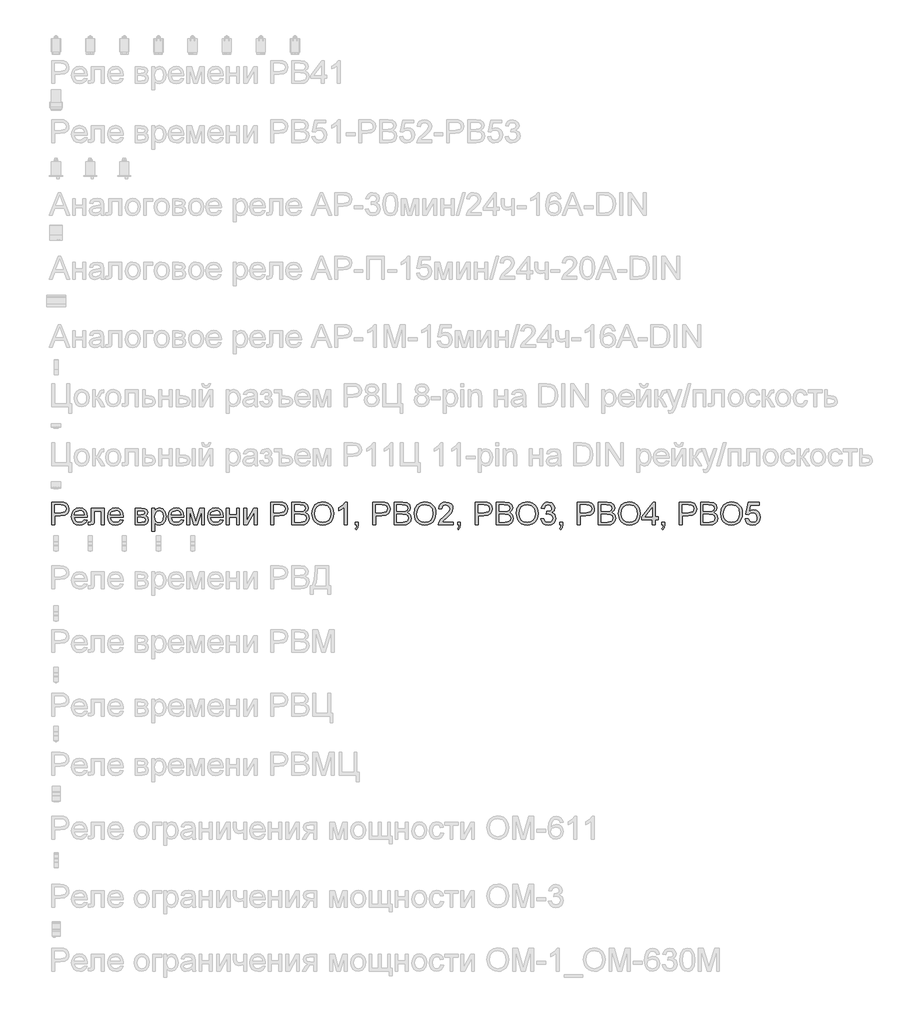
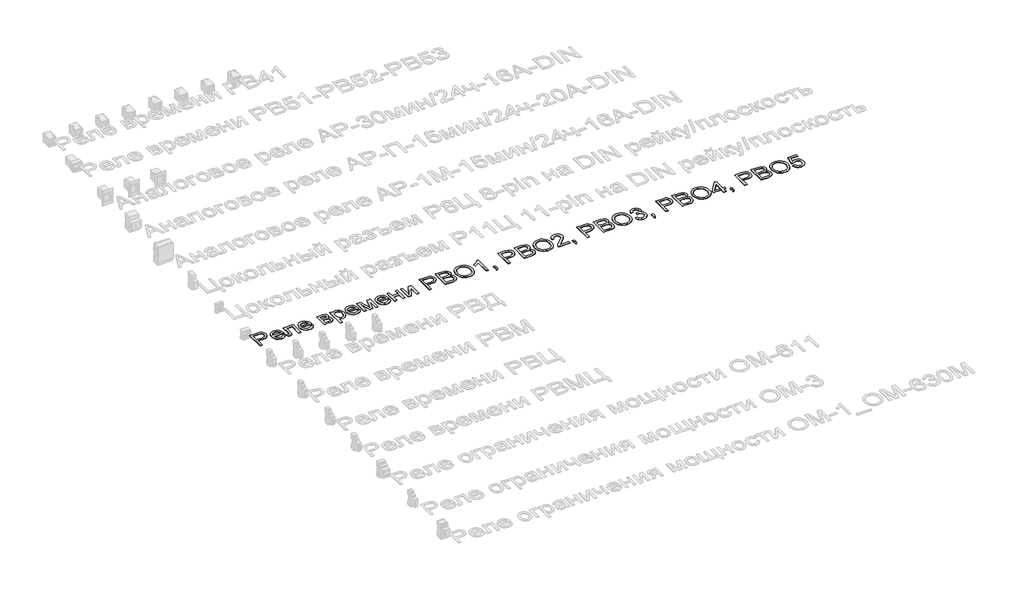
# One storey, part 22 of 34: 1 proxy.
"""IFC4 building model written with IfcOpenShell, lengths in millimetres."""

from ifc_helpers import new_model, si_unit, frame, origin, place, context, project, spatial, polyline, outline, extrude, element, save

model = new_model("IFC4")

# Units and contexts
model_context = context("Model", 3, world=origin())
ifc_project = project(units=[si_unit("LENGTHUNIT", "METRE", prefix="MILLI")], contexts=[model_context])

# Site, building, storey
site = spatial("IfcSite", under=ifc_project)
building = spatial("IfcBuilding", under=site)
storey = spatial("IfcBuildingStorey", under=building, Name="Этаж 01", Elevation=0.0)

# Proxy
placement = place(None, origin())
element("IfcBuildingElementProxy", 1, Name="Надпись на модели 1", ObjectType="Надпись на модели 1", at=placement, inside=storey, context=model_context, shape_type="SweptSolid", body=[
    extrude(outline(polyline([(-19039.0125911, 14596.235284), (-19039.0125911, 14696.6915941), (-19001.7829332, 14696.6915941), (-18986.7733478, 14695.735101), (-18974.5719283, 14691.0384742), (-18966.6624654, 14681.3263895), (-18963.6703585, 14667.6289165), (-18965.6906438, 14655.7892476), (-18971.7514996, 14645.9238788), (-18983.0853308, 14639.2652147), (-19000.9245418, 14637.04566), (-19026.4555523, 14637.04566), (-19026.4555523, 14596.235284), (-19039.0125911, 14596.235284)]), holes=[polyline([(-19026.4555523, 14649.6026988), (-19000.1887779, 14649.6026988), (-18981.6965762, 14654.2134864), (-18977.594692, 14659.7623732), (-18976.2273972, 14667.1874581), (-18979.4524961, 14677.5862559), (-18987.9260447, 14683.2761641), (-19000.4830834, 14684.1345554), (-19026.4555523, 14684.1345554), (-19026.4555523, 14649.6026988)])]), frame((0.0, 0.0, 40.0), z_axis=(0.0, 0.0, 1.0), x_axis=(1.0, 0.0, 0.0)), (0.0, 0.0, 1.0), 2.0),
    extrude(outline(polyline([(-18896.3234279, 14618.2101018), (-18884.0116438, 14616.640472), (-18888.4476875, 14607.3637143), (-18895.5263502, 14600.4291387), (-18905.0882164, 14596.1065253), (-18916.9738705, 14594.6656541), (-18931.7075445, 14597.1519233), (-18943.0444413, 14604.6107308), (-18950.2733225, 14616.5576985), (-18952.6829495, 14632.5084487), (-18950.248797, 14648.9956935), (-18942.9463394, 14661.3258717), (-18931.7627268, 14669.0146054), (-18917.6851091, 14671.5775166), (-18904.0458841, 14669.0207367), (-18893.14738, 14661.3503971), (-18886.0012722, 14649.0447444), (-18883.6192363, 14632.5820251), (-18883.6928127, 14629.1975108), (-18940.1259108, 14629.1975108), (-18937.9523413, 14619.7981258), (-18932.9031609, 14612.8880756), (-18925.6160317, 14608.6390386), (-18916.7286159, 14607.2226929), (-18904.4168318, 14609.8469178), (-18896.3234279, 14618.2101018)]), holes=[polyline([(-18940.1259108, 14641.7545495), (-18896.1762751, 14641.7545495), (-18901.2039957, 14653.1343659), (-18908.5248474, 14657.5489499), (-18917.73416, 14659.0204778), (-18933.1974665, 14654.323851), (-18938.0627059, 14648.8332123), (-18940.1259108, 14641.7545495)])]), frame((0.0, 0.0, 40.0), z_axis=(0.0, 0.0, 1.0), x_axis=(1.0, 0.0, 0.0)), (0.0, 0.0, 1.0), 2.0),
    extrude(outline(polyline([(-18864.7836782, 14670.0078868), (-18808.2770037, 14670.0078868), (-18808.2770037, 14596.3088604), (-18820.8340425, 14596.3088604), (-18820.8340425, 14657.450848), (-18852.2266394, 14657.450848), (-18852.2266394, 14622.2568038), (-18853.072768, 14606.0209451), (-18857.7203439, 14599.1660772), (-18868.7077528, 14596.235284), (-18878.9103468, 14596.8729461), (-18878.9103468, 14608.7923228), (-18873.294015, 14608.7923228), (-18867.6163695, 14609.564875), (-18865.3477639, 14612.0174216), (-18864.7836782, 14622.9680423), (-18864.7836782, 14670.0078868)])), frame((0.0, 0.0, 40.0), z_axis=(0.0, 0.0, 1.0), x_axis=(1.0, 0.0, 0.0)), (0.0, 0.0, 1.0), 2.0),
    extrude(outline(polyline([(-18737.7908134, 14618.2101018), (-18725.4790293, 14616.640472), (-18729.915073, 14607.3637143), (-18736.9937358, 14600.4291387), (-18746.555602, 14596.1065253), (-18758.4412561, 14594.6656541), (-18773.17493, 14597.1519233), (-18784.5118268, 14604.6107308), (-18791.740708, 14616.5576985), (-18794.1503351, 14632.5084487), (-18791.7161826, 14648.9956935), (-18784.4137249, 14661.3258717), (-18773.2301123, 14669.0146054), (-18759.1524946, 14671.5775166), (-18745.5132696, 14669.0207367), (-18734.6147655, 14661.3503971), (-18727.4686578, 14649.0447444), (-18725.0866219, 14632.5820251), (-18725.1601983, 14629.1975108), (-18781.5932963, 14629.1975108), (-18779.4197269, 14619.7981258), (-18774.3705465, 14612.8880756), (-18767.0834173, 14608.6390386), (-18758.1960014, 14607.2226929), (-18745.8842173, 14609.8469178), (-18737.7908134, 14618.2101018)]), holes=[polyline([(-18781.5932963, 14641.7545495), (-18737.6436606, 14641.7545495), (-18742.6713812, 14653.1343659), (-18749.9922329, 14657.5489499), (-18759.2015455, 14659.0204778), (-18774.6648521, 14654.323851), (-18779.5300915, 14648.8332123), (-18781.5932963, 14641.7545495)])]), frame((0.0, 0.0, 40.0), z_axis=(0.0, 0.0, 1.0), x_axis=(1.0, 0.0, 0.0)), (0.0, 0.0, 1.0), 2.0),
    extrude(outline(polyline([(-18673.2888369, 14670.0078868), (-18645.6241109, 14670.0078868), (-18630.45511, 14668.3278923), (-18621.9202477, 14662.1720003), (-18618.3517923, 14651.4421087), (-18620.5100334, 14642.7233055), (-18627.0092819, 14636.5060997), (-18618.5725215, 14629.7002828), (-18615.2125326, 14617.8667453), (-18617.3401168, 14608.2956821), (-18622.3984943, 14601.5573102), (-18630.406059, 14597.5657905), (-18641.3812052, 14596.235284), (-18673.2888369, 14596.235284), (-18673.2888369, 14670.0078868)]), holes=[polyline([(-18660.7317982, 14641.7545495), (-18648.3219122, 14641.7545495), (-18638.08253, 14642.3922117), (-18633.1038603, 14644.9428602), (-18630.9088311, 14649.5536478), (-18634.7593293, 14655.7095399), (-18647.9295047, 14657.450848), (-18660.7317982, 14657.450848), (-18660.7317982, 14641.7545495)]), polyline([(-18660.7317982, 14608.7923228), (-18645.3298053, 14608.7923228), (-18631.6691206, 14611.0609284), (-18627.7695714, 14618.8968149), (-18629.9155497, 14624.9423424), (-18635.507356, 14628.4617468), (-18646.5560786, 14629.1975108), (-18660.7317982, 14629.1975108), (-18660.7317982, 14608.7923228)])]), frame((0.0, 0.0, 40.0), z_axis=(0.0, 0.0, 1.0), x_axis=(1.0, 0.0, 0.0)), (0.0, 0.0, 1.0), 2.0),
    extrude(outline(polyline([(-18599.5162342, 14567.9819468), (-18599.5162342, 14670.0078868), (-18586.9591954, 14670.0078868), (-18586.9591954, 14657.6961027), (-18578.2771803, 14668.1071631), (-18566.5540074, 14671.5775166), (-18550.6369797, 14666.7214743), (-18540.238182, 14653.036264), (-18536.7310403, 14633.6856711), (-18540.6919031, 14613.3417968), (-18552.1943469, 14599.4849083), (-18568.0745863, 14594.6656541), (-18579.0006816, 14597.890753), (-18586.9591954, 14606.0454705), (-18586.9591954, 14567.9819468), (-18599.5162342, 14567.9819468)]), holes=[polyline([(-18586.9591954, 14632.5329742), (-18585.6010977, 14621.2757851), (-18581.5268046, 14613.4031104), (-18575.5149997, 14608.7677973), (-18568.3443664, 14607.2226929), (-18561.0572373, 14608.8229796), (-18554.8921482, 14613.6238396), (-18550.6890964, 14621.7846886), (-18549.2880791, 14633.4649419), (-18550.6553738, 14644.6608173), (-18554.7572581, 14652.6438566), (-18560.759866, 14657.4263225), (-18567.8293317, 14659.0204778), (-18574.9263885, 14657.325155), (-18581.1589226, 14652.2391864), (-18585.5091272, 14643.9219876), (-18586.9591954, 14632.5329742)])]), frame((0.0, 0.0, 40.0), z_axis=(0.0, 0.0, 1.0), x_axis=(1.0, 0.0, 0.0)), (0.0, 0.0, 1.0), 2.0),
    extrude(outline(polyline([(-18470.9537396, 14618.2101018), (-18458.6419555, 14616.640472), (-18463.0779992, 14607.3637143), (-18470.1566619, 14600.4291387), (-18479.7185281, 14596.1065253), (-18491.6041823, 14594.6656541), (-18506.3378562, 14597.1519233), (-18517.674753, 14604.6107308), (-18524.9036342, 14616.5576985), (-18527.3132613, 14632.5084487), (-18524.8791087, 14648.9956935), (-18517.5766511, 14661.3258717), (-18506.3930385, 14669.0146054), (-18492.3154208, 14671.5775166), (-18478.6761958, 14669.0207367), (-18467.7776917, 14661.3503971), (-18460.6315839, 14649.0447444), (-18458.249548, 14632.5820251), (-18458.3231244, 14629.1975108), (-18514.7562225, 14629.1975108), (-18512.582653, 14619.7981258), (-18507.5334726, 14612.8880756), (-18500.2463435, 14608.6390386), (-18491.3589276, 14607.2226929), (-18479.0471435, 14609.8469178), (-18470.9537396, 14618.2101018)]), holes=[polyline([(-18514.7562225, 14641.7545495), (-18470.8065868, 14641.7545495), (-18475.8343074, 14653.1343659), (-18483.1551591, 14657.5489499), (-18492.3644717, 14659.0204778), (-18507.8277782, 14654.323851), (-18512.6930176, 14648.8332123), (-18514.7562225, 14641.7545495)])]), frame((0.0, 0.0, 40.0), z_axis=(0.0, 0.0, 1.0), x_axis=(1.0, 0.0, 0.0)), (0.0, 0.0, 1.0), 2.0),
    extrude(outline(polyline([(-18445.6925093, 14670.0078868), (-18424.0855734, 14670.0078868), (-18407.4327818, 14610.9505638), (-18389.4801404, 14670.0078868), (-18368.7806468, 14670.0078868), (-18368.7806468, 14596.235284), (-18381.3376856, 14596.235284), (-18381.3376856, 14655.6359635), (-18399.3884288, 14596.235284), (-18415.8695422, 14596.235284), (-18433.1354705, 14658.4809176), (-18433.1354705, 14596.235284), (-18445.6925093, 14596.235284), (-18445.6925093, 14670.0078868)])), frame((0.0, 0.0, 40.0), z_axis=(0.0, 0.0, 1.0), x_axis=(1.0, 0.0, 0.0)), (0.0, 0.0, 1.0), 2.0),
    extrude(outline(polyline([(-18298.2944565, 14618.2101018), (-18285.9826724, 14616.640472), (-18290.4187161, 14607.3637143), (-18297.4973789, 14600.4291387), (-18307.0592451, 14596.1065253), (-18318.9448992, 14594.6656541), (-18333.6785731, 14597.1519233), (-18345.0154699, 14604.6107308), (-18352.2443511, 14616.5576985), (-18354.6539782, 14632.5084487), (-18352.2198256, 14648.9956935), (-18344.917368, 14661.3258717), (-18333.7337554, 14669.0146054), (-18319.6561377, 14671.5775166), (-18306.0169127, 14669.0207367), (-18295.1184086, 14661.3503971), (-18287.9723009, 14649.0447444), (-18285.590265, 14632.5820251), (-18285.6638414, 14629.1975108), (-18342.0969394, 14629.1975108), (-18339.92337, 14619.7981258), (-18334.8741896, 14612.8880756), (-18327.5870604, 14608.6390386), (-18318.6996445, 14607.2226929), (-18306.3878604, 14609.8469178), (-18298.2944565, 14618.2101018)]), holes=[polyline([(-18342.0969394, 14641.7545495), (-18298.1473037, 14641.7545495), (-18303.1750243, 14653.1343659), (-18310.495876, 14657.5489499), (-18319.7051886, 14659.0204778), (-18335.1684952, 14654.323851), (-18340.0337346, 14648.8332123), (-18342.0969394, 14641.7545495)])]), frame((0.0, 0.0, 40.0), z_axis=(0.0, 0.0, 1.0), x_axis=(1.0, 0.0, 0.0)), (0.0, 0.0, 1.0), 2.0),
    extrude(outline(polyline([(-18273.0332262, 14670.0078868), (-18260.4761874, 14670.0078868), (-18260.4761874, 14641.7545495), (-18227.5139607, 14641.7545495), (-18227.5139607, 14670.0078868), (-18214.9569219, 14670.0078868), (-18214.9569219, 14596.235284), (-18227.5139607, 14596.235284), (-18227.5139607, 14629.1975108), (-18260.4761874, 14629.1975108), (-18260.4761874, 14596.235284), (-18273.0332262, 14596.235284), (-18273.0332262, 14670.0078868)])), frame((0.0, 0.0, 40.0), z_axis=(0.0, 0.0, 1.0), x_axis=(1.0, 0.0, 0.0)), (0.0, 0.0, 1.0), 2.0),
    extrude(outline(polyline([(-18196.1213637, 14670.0078868), (-18183.564325, 14670.0078868), (-18183.564325, 14613.746467), (-18152.7112883, 14670.0078868), (-18136.4754296, 14670.0078868), (-18136.4754296, 14596.235284), (-18149.0324683, 14596.235284), (-18149.0324683, 14652.1533473), (-18179.6893013, 14596.235284), (-18196.1213637, 14596.235284), (-18196.1213637, 14670.0078868)])), frame((0.0, 0.0, 40.0), z_axis=(0.0, 0.0, 1.0), x_axis=(1.0, 0.0, 0.0)), (0.0, 0.0, 1.0), 2.0),
    extrude(outline(polyline([(-18076.8294954, 14596.235284), (-18076.8294954, 14696.6915941), (-18039.5998375, 14696.6915941), (-18024.5902521, 14695.735101), (-18012.3888326, 14691.0384742), (-18004.4793697, 14681.3263895), (-18001.4872628, 14667.6289165), (-18003.5075481, 14655.7892476), (-18009.568404, 14645.9238788), (-18020.9022351, 14639.2652147), (-18038.7414462, 14637.04566), (-18064.2724567, 14637.04566), (-18064.2724567, 14596.235284), (-18076.8294954, 14596.235284)]), holes=[polyline([(-18064.2724567, 14649.6026988), (-18038.0056822, 14649.6026988), (-18019.5134806, 14654.2134864), (-18015.4115963, 14659.7623732), (-18014.0443016, 14667.1874581), (-18017.2694004, 14677.5862559), (-18025.742949, 14683.2761641), (-18038.2999878, 14684.1345554), (-18064.2724567, 14684.1345554), (-18064.2724567, 14649.6026988)])]), frame((0.0, 0.0, 40.0), z_axis=(0.0, 0.0, 1.0), x_axis=(1.0, 0.0, 0.0)), (0.0, 0.0, 1.0), 2.0),
    extrude(outline(polyline([(-17984.2213345, 14596.235284), (-17984.2213345, 14696.6915941), (-17945.8880306, 14696.6915941), (-17927.1137861, 14693.7362754), (-17916.0282753, 14684.6495902), (-17912.0183616, 14671.7982458), (-17915.3906132, 14660.0628102), (-17925.5809445, 14651.1723286), (-17913.2078467, 14641.8036005), (-17908.8791019, 14626.1808784), (-17911.8344206, 14612.6796092), (-17919.1552723, 14603.0656264), (-17930.0813675, 14597.9643294), (-17946.1823362, 14596.235284), (-17984.2213345, 14596.235284)]), holes=[polyline([(-17971.6642957, 14655.8812181), (-17948.7329847, 14655.8812181), (-17935.3420801, 14656.9603387), (-17927.2854644, 14661.6079145), (-17924.5754004, 14669.7871576), (-17927.1015234, 14677.9786633), (-17934.336536, 14682.8224429), (-17950.4742928, 14684.1345554), (-17971.6642957, 14684.1345554), (-17971.6642957, 14655.8812181)]), polyline([(-17971.6642957, 14608.7923228), (-17945.9125561, 14608.7923228), (-17936.5928789, 14609.2828321), (-17928.7079414, 14612.0174216), (-17923.4840171, 14617.5969652), (-17921.4361407, 14626.0582511), (-17923.8396364, 14635.8193867), (-17931.6264719, 14641.6441849), (-17947.1388294, 14643.3241794), (-17971.6642957, 14643.3241794), (-17971.6642957, 14608.7923228)])]), frame((0.0, 0.0, 40.0), z_axis=(0.0, 0.0, 1.0), x_axis=(1.0, 0.0, 0.0)), (0.0, 0.0, 1.0), 2.0),
    extrude(outline(polyline([(-17896.3220631, 14645.1390639), (-17892.974337, 14667.353005), (-17882.9311585, 14684.1590808), (-17867.5966107, 14694.7356882), (-17848.3747764, 14698.261224), (-17835.1984696, 14696.605755), (-17823.3833262, 14691.6393481), (-17813.5731397, 14683.7114911), (-17806.4117035, 14673.1716719), (-17802.0339078, 14660.528794), (-17800.5746425, 14646.2917608), (-17802.1105498, 14631.8646552), (-17806.7182718, 14619.0439677), (-17814.1433568, 14608.4857544), (-17824.1313529, 14600.8460717), (-17835.8453288, 14596.2107585), (-17848.4483528, 14594.6656541), (-17861.8269947, 14596.3732397), (-17873.7095832, 14601.4959965), (-17883.4952442, 14609.5710063), (-17890.583104, 14620.1353509), (-17896.3220631, 14645.1390639)]), holes=[polyline([(-17883.7650244, 14645.0164366), (-17881.2542297, 14629.301744), (-17873.7218459, 14617.327185), (-17862.4002775, 14609.7488159), (-17848.5219292, 14607.2226929), (-17834.4412459, 14609.7733414), (-17823.1012834, 14617.4252869), (-17815.6240818, 14629.7677279), (-17813.1316813, 14646.3898627), (-17817.3991124, 14667.1138817), (-17829.8703121, 14680.8358802), (-17848.3012, 14685.7041852), (-17861.8086006, 14683.3589375), (-17873.2926502, 14676.3231943), (-17881.1469308, 14663.8060095), (-17883.7650244, 14645.0164366)])]), frame((0.0, 0.0, 40.0), z_axis=(0.0, 0.0, 1.0), x_axis=(1.0, 0.0, 0.0)), (0.0, 0.0, 1.0), 2.0),
    extrude(outline(polyline([(-17740.9287084, 14596.235284), (-17753.4857471, 14596.235284), (-17753.4857471, 14674.5205726), (-17765.3805983, 14666.0470239), (-17778.5998247, 14659.7071909), (-17778.5998247, 14671.5775166), (-17760.1934622, 14683.325215), (-17749.0221123, 14696.6915941), (-17740.9287084, 14696.6915941), (-17740.9287084, 14596.235284)])), frame((0.0, 0.0, 40.0), z_axis=(0.0, 0.0, 1.0), x_axis=(1.0, 0.0, 0.0)), (0.0, 0.0, 1.0), 2.0),
    extrude(outline(polyline([(-17704.8272219, 14596.235284), (-17704.8272219, 14608.7923228), (-17692.2701831, 14608.7923228), (-17692.2701831, 14596.235284), (-17694.526526, 14583.3962024), (-17701.6879622, 14575.830096), (-17704.8272219, 14580.5389855), (-17700.2164342, 14585.9591136), (-17698.573228, 14596.235284), (-17704.8272219, 14596.235284)])), frame((0.0, 0.0, 40.0), z_axis=(0.0, 0.0, 1.0), x_axis=(1.0, 0.0, 0.0)), (0.0, 0.0, 1.0), 2.0),
    extrude(outline(polyline([(-17627.9153594, 14596.235284), (-17627.9153594, 14696.6915941), (-17590.6857015, 14696.6915941), (-17575.6761161, 14695.735101), (-17563.4746966, 14691.0384742), (-17555.5652337, 14681.3263895), (-17552.5731268, 14667.6289165), (-17554.5934121, 14655.7892476), (-17560.654268, 14645.9238788), (-17571.9880991, 14639.2652147), (-17589.8273102, 14637.04566), (-17615.3583207, 14637.04566), (-17615.3583207, 14596.235284), (-17627.9153594, 14596.235284)]), holes=[polyline([(-17615.3583207, 14649.6026988), (-17589.0915462, 14649.6026988), (-17570.5993446, 14654.2134864), (-17566.4974603, 14659.7623732), (-17565.1301656, 14667.1874581), (-17568.3552644, 14677.5862559), (-17576.828813, 14683.2761641), (-17589.3858518, 14684.1345554), (-17615.3583207, 14684.1345554), (-17615.3583207, 14649.6026988)])]), frame((0.0, 0.0, 40.0), z_axis=(0.0, 0.0, 1.0), x_axis=(1.0, 0.0, 0.0)), (0.0, 0.0, 1.0), 2.0),
    extrude(outline(polyline([(-17535.3071985, 14596.235284), (-17535.3071985, 14696.6915941), (-17496.9738946, 14696.6915941), (-17478.1996501, 14693.7362754), (-17467.1141394, 14684.6495902), (-17463.1042256, 14671.7982458), (-17466.4764772, 14660.0628102), (-17476.6668085, 14651.1723286), (-17464.2937107, 14641.8036005), (-17459.9649659, 14626.1808784), (-17462.9202846, 14612.6796092), (-17470.2411363, 14603.0656264), (-17481.1672316, 14597.9643294), (-17497.2682002, 14596.235284), (-17535.3071985, 14596.235284)]), holes=[polyline([(-17522.7501598, 14655.8812181), (-17499.8188487, 14655.8812181), (-17486.4279441, 14656.9603387), (-17478.3713284, 14661.6079145), (-17475.6612644, 14669.7871576), (-17478.1873874, 14677.9786633), (-17485.4224, 14682.8224429), (-17501.5601568, 14684.1345554), (-17522.7501598, 14684.1345554), (-17522.7501598, 14655.8812181)]), polyline([(-17522.7501598, 14608.7923228), (-17496.9984201, 14608.7923228), (-17487.6787429, 14609.2828321), (-17479.7938055, 14612.0174216), (-17474.5698811, 14617.5969652), (-17472.5220047, 14626.0582511), (-17474.9255004, 14635.8193867), (-17482.7123359, 14641.6441849), (-17498.2246934, 14643.3241794), (-17522.7501598, 14643.3241794), (-17522.7501598, 14608.7923228)])]), frame((0.0, 0.0, 40.0), z_axis=(0.0, 0.0, 1.0), x_axis=(1.0, 0.0, 0.0)), (0.0, 0.0, 1.0), 2.0),
    extrude(outline(polyline([(-17447.4079271, 14645.1390639), (-17444.060201, 14667.353005), (-17434.0170225, 14684.1590808), (-17418.6824747, 14694.7356882), (-17399.4606404, 14698.261224), (-17386.2843336, 14696.605755), (-17374.4691902, 14691.6393481), (-17364.6590037, 14683.7114911), (-17357.4975675, 14673.1716719), (-17353.1197718, 14660.528794), (-17351.6605065, 14646.2917608), (-17353.1964139, 14631.8646552), (-17357.8041359, 14619.0439677), (-17365.2292208, 14608.4857544), (-17375.217217, 14600.8460717), (-17386.9311928, 14596.2107585), (-17399.5342168, 14594.6656541), (-17412.9128587, 14596.3732397), (-17424.7954472, 14601.4959965), (-17434.5811082, 14609.5710063), (-17441.668968, 14620.1353509), (-17447.4079271, 14645.1390639)]), holes=[polyline([(-17434.8508884, 14645.0164366), (-17432.3400938, 14629.301744), (-17424.8077099, 14617.327185), (-17413.4861415, 14609.7488159), (-17399.6077932, 14607.2226929), (-17385.5271099, 14609.7733414), (-17374.1871474, 14617.4252869), (-17366.7099458, 14629.7677279), (-17364.2175453, 14646.3898627), (-17368.4849764, 14667.1138817), (-17380.9561761, 14680.8358802), (-17399.387064, 14685.7041852), (-17412.8944646, 14683.3589375), (-17424.3785142, 14676.3231943), (-17432.2327948, 14663.8060095), (-17434.8508884, 14645.0164366)])]), frame((0.0, 0.0, 40.0), z_axis=(0.0, 0.0, 1.0), x_axis=(1.0, 0.0, 0.0)), (0.0, 0.0, 1.0), 2.0),
    extrude(outline(polyline([(-17274.7486441, 14608.7923228), (-17274.7486441, 14596.235284), (-17340.6730976, 14596.235284), (-17339.324197, 14604.8927736), (-17331.6967769, 14618.2223646), (-17315.975953, 14632.7782288), (-17294.2954408, 14653.6984516), (-17288.8753127, 14667.9232221), (-17293.9888724, 14679.4379286), (-17307.3429888, 14684.1345554), (-17321.261191, 14679.5482932), (-17326.546429, 14666.8686271), (-17339.1034678, 14668.4382569), (-17336.0592443, 14680.5844941), (-17329.4772222, 14689.4565816), (-17319.7007582, 14694.882841), (-17307.0732087, 14696.6915941), (-17294.3536887, 14694.6805059), (-17284.5956188, 14688.6472412), (-17278.3876101, 14679.6341323), (-17276.3182739, 14668.6835116), (-17278.5500914, 14656.7763977), (-17285.9690449, 14644.4646136), (-17303.9584745, 14627.2599989), (-17318.4039742, 14615.1812067), (-17324.0693569, 14608.7923228), (-17274.7486441, 14608.7923228)])), frame((0.0, 0.0, 40.0), z_axis=(0.0, 0.0, 1.0), x_axis=(1.0, 0.0, 0.0)), (0.0, 0.0, 1.0), 2.0),
    extrude(outline(polyline([(-17255.9130859, 14596.235284), (-17255.9130859, 14608.7923228), (-17243.3560472, 14608.7923228), (-17243.3560472, 14596.235284), (-17245.6123901, 14583.3962024), (-17252.7738262, 14575.830096), (-17255.9130859, 14580.5389855), (-17251.3022982, 14585.9591136), (-17249.659092, 14596.235284), (-17255.9130859, 14596.235284)])), frame((0.0, 0.0, 40.0), z_axis=(0.0, 0.0, 1.0), x_axis=(1.0, 0.0, 0.0)), (0.0, 0.0, 1.0), 2.0),
    extrude(outline(polyline([(-17179.0012235, 14596.235284), (-17179.0012235, 14696.6915941), (-17141.7715656, 14696.6915941), (-17126.7619801, 14695.735101), (-17114.5605606, 14691.0384742), (-17106.6510977, 14681.3263895), (-17103.6589909, 14667.6289165), (-17105.6792761, 14655.7892476), (-17111.740132, 14645.9238788), (-17123.0739631, 14639.2652147), (-17140.9131742, 14637.04566), (-17166.4441847, 14637.04566), (-17166.4441847, 14596.235284), (-17179.0012235, 14596.235284)]), holes=[polyline([(-17166.4441847, 14649.6026988), (-17140.1774102, 14649.6026988), (-17121.6852086, 14654.2134864), (-17117.5833244, 14659.7623732), (-17116.2160296, 14667.1874581), (-17119.4411284, 14677.5862559), (-17127.9146771, 14683.2761641), (-17140.4717158, 14684.1345554), (-17166.4441847, 14684.1345554), (-17166.4441847, 14649.6026988)])]), frame((0.0, 0.0, 40.0), z_axis=(0.0, 0.0, 1.0), x_axis=(1.0, 0.0, 0.0)), (0.0, 0.0, 1.0), 2.0),
    extrude(outline(polyline([(-17086.3930625, 14596.235284), (-17086.3930625, 14696.6915941), (-17048.0597586, 14696.6915941), (-17029.2855142, 14693.7362754), (-17018.2000034, 14684.6495902), (-17014.1900896, 14671.7982458), (-17017.5623412, 14660.0628102), (-17027.7526725, 14651.1723286), (-17015.3795747, 14641.8036005), (-17011.0508299, 14626.1808784), (-17014.0061486, 14612.6796092), (-17021.3270003, 14603.0656264), (-17032.2530956, 14597.9643294), (-17048.3540642, 14596.235284), (-17086.3930625, 14596.235284)]), holes=[polyline([(-17073.8360238, 14655.8812181), (-17050.9047127, 14655.8812181), (-17037.5138081, 14656.9603387), (-17029.4571924, 14661.6079145), (-17026.7471284, 14669.7871576), (-17029.2732514, 14677.9786633), (-17036.508264, 14682.8224429), (-17052.6460209, 14684.1345554), (-17073.8360238, 14684.1345554), (-17073.8360238, 14655.8812181)]), polyline([(-17073.8360238, 14608.7923228), (-17048.0842841, 14608.7923228), (-17038.7646069, 14609.2828321), (-17030.8796695, 14612.0174216), (-17025.6557451, 14617.5969652), (-17023.6078687, 14626.0582511), (-17026.0113644, 14635.8193867), (-17033.7982, 14641.6441849), (-17049.3105574, 14643.3241794), (-17073.8360238, 14643.3241794), (-17073.8360238, 14608.7923228)])]), frame((0.0, 0.0, 40.0), z_axis=(0.0, 0.0, 1.0), x_axis=(1.0, 0.0, 0.0)), (0.0, 0.0, 1.0), 2.0),
    extrude(outline(polyline([(-16998.4937912, 14645.1390639), (-16995.146065, 14667.353005), (-16985.1028865, 14684.1590808), (-16969.7683387, 14694.7356882), (-16950.5465045, 14698.261224), (-16937.3701977, 14696.605755), (-16925.5550543, 14691.6393481), (-16915.7448677, 14683.7114911), (-16908.5834315, 14673.1716719), (-16904.2056358, 14660.528794), (-16902.7463706, 14646.2917608), (-16904.2822779, 14631.8646552), (-16908.8899999, 14619.0439677), (-16916.3150848, 14608.4857544), (-16926.303081, 14600.8460717), (-16938.0170568, 14596.2107585), (-16950.6200809, 14594.6656541), (-16963.9987227, 14596.3732397), (-16975.8813112, 14601.4959965), (-16985.6669723, 14609.5710063), (-16992.754832, 14620.1353509), (-16998.4937912, 14645.1390639)]), holes=[polyline([(-16985.9367524, 14645.0164366), (-16983.4259578, 14629.301744), (-16975.8935739, 14617.327185), (-16964.5720055, 14609.7488159), (-16950.6936573, 14607.2226929), (-16936.6129739, 14609.7733414), (-16925.2730114, 14617.4252869), (-16917.7958098, 14629.7677279), (-16915.3034093, 14646.3898627), (-16919.5708405, 14667.1138817), (-16932.0420401, 14680.8358802), (-16950.4729281, 14685.7041852), (-16963.9803286, 14683.3589375), (-16975.4643783, 14676.3231943), (-16983.3186589, 14663.8060095), (-16985.9367524, 14645.0164366)])]), frame((0.0, 0.0, 40.0), z_axis=(0.0, 0.0, 1.0), x_axis=(1.0, 0.0, 0.0)), (0.0, 0.0, 1.0), 2.0),
    extrude(outline(polyline([(-16890.1893318, 14622.9189914), (-16877.632293, 14624.4886212), (-16870.7038488, 14611.2693949), (-16857.7421398, 14607.2226929), (-16849.1337011, 14608.6145131), (-16842.4872997, 14612.7899738), (-16836.821917, 14626.5732859), (-16842.4382488, 14639.5595203), (-16856.7120702, 14644.6976055), (-16865.5167126, 14643.3241794), (-16864.1187611, 14655.8812181), (-16862.1076728, 14655.7340653), (-16847.8583769, 14659.3393089), (-16843.1126991, 14663.9133084), (-16841.5308066, 14670.4248197), (-16846.1170688, 14680.247269), (-16857.9383435, 14684.1345554), (-16869.9067711, 14680.2104808), (-16876.0626632, 14668.4382569), (-16888.6197019, 14670.0078868), (-16884.9224879, 14681.2834699), (-16878.3435315, 14689.7018362), (-16869.3426854, 14694.9441547), (-16858.3798019, 14696.6915941), (-16843.2353265, 14693.2457661), (-16832.640325, 14683.827987), (-16828.9737678, 14671.1605837), (-16832.456384, 14659.5845636), (-16842.7570799, 14651.2704305), (-16829.0718697, 14642.6865173), (-16824.2648782, 14626.3525567), (-16826.6683739, 14614.114349), (-16833.8788611, 14603.8872295), (-16844.7620367, 14596.971048), (-16858.1835982, 14594.6656541), (-16870.323704, 14596.6338228), (-16880.207467, 14602.5383288), (-16887.0807289, 14611.5698318), (-16890.1893318, 14622.9189914)])), frame((0.0, 0.0, 40.0), z_axis=(0.0, 0.0, 1.0), x_axis=(1.0, 0.0, 0.0)), (0.0, 0.0, 1.0), 2.0),
    extrude(outline(polyline([(-16806.9989499, 14596.235284), (-16806.9989499, 14608.7923228), (-16794.4419112, 14608.7923228), (-16794.4419112, 14596.235284), (-16796.6982541, 14583.3962024), (-16803.8596902, 14575.830096), (-16806.9989499, 14580.5389855), (-16802.3881623, 14585.9591136), (-16800.744956, 14596.235284), (-16806.9989499, 14596.235284)])), frame((0.0, 0.0, 40.0), z_axis=(0.0, 0.0, 1.0), x_axis=(1.0, 0.0, 0.0)), (0.0, 0.0, 1.0), 2.0),
    extrude(outline(polyline([(-16730.0870875, 14596.235284), (-16730.0870875, 14696.6915941), (-16692.8574296, 14696.6915941), (-16677.8478442, 14695.735101), (-16665.6464247, 14691.0384742), (-16657.7369618, 14681.3263895), (-16654.7448549, 14667.6289165), (-16656.7651402, 14655.7892476), (-16662.825996, 14645.9238788), (-16674.1598272, 14639.2652147), (-16691.9990382, 14637.04566), (-16717.5300487, 14637.04566), (-16717.5300487, 14596.235284), (-16730.0870875, 14596.235284)]), holes=[polyline([(-16717.5300487, 14649.6026988), (-16691.2632743, 14649.6026988), (-16672.7710726, 14654.2134864), (-16668.6691884, 14659.7623732), (-16667.3018936, 14667.1874581), (-16670.5269925, 14677.5862559), (-16679.0005411, 14683.2761641), (-16691.5575799, 14684.1345554), (-16717.5300487, 14684.1345554), (-16717.5300487, 14649.6026988)])]), frame((0.0, 0.0, 40.0), z_axis=(0.0, 0.0, 1.0), x_axis=(1.0, 0.0, 0.0)), (0.0, 0.0, 1.0), 2.0),
    extrude(outline(polyline([(-16637.4789266, 14596.235284), (-16637.4789266, 14696.6915941), (-16599.1456227, 14696.6915941), (-16580.3713782, 14693.7362754), (-16569.2858674, 14684.6495902), (-16565.2759536, 14671.7982458), (-16568.6482053, 14660.0628102), (-16578.8385365, 14651.1723286), (-16566.4654388, 14641.8036005), (-16562.136694, 14626.1808784), (-16565.0920126, 14612.6796092), (-16572.4128643, 14603.0656264), (-16583.3389596, 14597.9643294), (-16599.4399283, 14596.235284), (-16637.4789266, 14596.235284)]), holes=[polyline([(-16624.9218878, 14655.8812181), (-16601.9905768, 14655.8812181), (-16588.5996721, 14656.9603387), (-16580.5430564, 14661.6079145), (-16577.8329924, 14669.7871576), (-16580.3591154, 14677.9786633), (-16587.594128, 14682.8224429), (-16603.7318849, 14684.1345554), (-16624.9218878, 14684.1345554), (-16624.9218878, 14655.8812181)]), polyline([(-16624.9218878, 14608.7923228), (-16599.1701481, 14608.7923228), (-16589.8504709, 14609.2828321), (-16581.9655335, 14612.0174216), (-16576.7416092, 14617.5969652), (-16574.6937327, 14626.0582511), (-16577.0972284, 14635.8193867), (-16584.884064, 14641.6441849), (-16600.3964214, 14643.3241794), (-16624.9218878, 14643.3241794), (-16624.9218878, 14608.7923228)])]), frame((0.0, 0.0, 40.0), z_axis=(0.0, 0.0, 1.0), x_axis=(1.0, 0.0, 0.0)), (0.0, 0.0, 1.0), 2.0),
    extrude(outline(polyline([(-16549.5796552, 14645.1390639), (-16546.231929, 14667.353005), (-16536.1887506, 14684.1590808), (-16520.8542027, 14694.7356882), (-16501.6323685, 14698.261224), (-16488.4560617, 14696.605755), (-16476.6409183, 14691.6393481), (-16466.8307317, 14683.7114911), (-16459.6692956, 14673.1716719), (-16455.2914998, 14660.528794), (-16453.8322346, 14646.2917608), (-16455.3681419, 14631.8646552), (-16459.9758639, 14619.0439677), (-16467.4009488, 14608.4857544), (-16477.388945, 14600.8460717), (-16489.1029209, 14596.2107585), (-16501.7059449, 14594.6656541), (-16515.0845868, 14596.3732397), (-16526.9671752, 14601.4959965), (-16536.7528363, 14609.5710063), (-16543.8406961, 14620.1353509), (-16549.5796552, 14645.1390639)]), holes=[polyline([(-16537.0226164, 14645.0164366), (-16534.5118218, 14629.301744), (-16526.9794379, 14617.327185), (-16515.6578695, 14609.7488159), (-16501.7795213, 14607.2226929), (-16487.6988379, 14609.7733414), (-16476.3588754, 14617.4252869), (-16468.8816739, 14629.7677279), (-16466.3892733, 14646.3898627), (-16470.6567045, 14667.1138817), (-16483.1279041, 14680.8358802), (-16501.5587921, 14685.7041852), (-16515.0661927, 14683.3589375), (-16526.5502423, 14676.3231943), (-16534.4045229, 14663.8060095), (-16537.0226164, 14645.0164366)])]), frame((0.0, 0.0, 40.0), z_axis=(0.0, 0.0, 1.0), x_axis=(1.0, 0.0, 0.0)), (0.0, 0.0, 1.0), 2.0),
    extrude(outline(polyline([(-16400.4648198, 14596.235284), (-16400.4648198, 14619.7797317), (-16445.9840853, 14619.7797317), (-16445.9840853, 14632.3367705), (-16397.3255601, 14695.1219643), (-16387.907781, 14695.1219643), (-16387.907781, 14632.3367705), (-16375.3507423, 14632.3367705), (-16375.3507423, 14619.7797317), (-16387.907781, 14619.7797317), (-16387.907781, 14596.235284), (-16400.4648198, 14596.235284)]), holes=[polyline([(-16400.4648198, 14632.3367705), (-16400.4648198, 14671.1360582), (-16430.5330415, 14632.3367705), (-16400.4648198, 14632.3367705)])]), frame((0.0, 0.0, 40.0), z_axis=(0.0, 0.0, 1.0), x_axis=(1.0, 0.0, 0.0)), (0.0, 0.0, 1.0), 2.0),
    extrude(outline(polyline([(-16358.084814, 14596.235284), (-16358.084814, 14608.7923228), (-16345.5277752, 14608.7923228), (-16345.5277752, 14596.235284), (-16347.7841181, 14583.3962024), (-16354.9455543, 14575.830096), (-16358.084814, 14580.5389855), (-16353.4740263, 14585.9591136), (-16351.83082, 14596.235284), (-16358.084814, 14596.235284)])), frame((0.0, 0.0, 40.0), z_axis=(0.0, 0.0, 1.0), x_axis=(1.0, 0.0, 0.0)), (0.0, 0.0, 1.0), 2.0),
    extrude(outline(polyline([(-16281.1729515, 14596.235284), (-16281.1729515, 14696.6915941), (-16243.9432936, 14696.6915941), (-16228.9337082, 14695.735101), (-16216.7322887, 14691.0384742), (-16208.8228258, 14681.3263895), (-16205.8307189, 14667.6289165), (-16207.8510042, 14655.7892476), (-16213.91186, 14645.9238788), (-16225.2456912, 14639.2652147), (-16243.0849023, 14637.04566), (-16268.6159127, 14637.04566), (-16268.6159127, 14596.235284), (-16281.1729515, 14596.235284)]), holes=[polyline([(-16268.6159127, 14649.6026988), (-16242.3491383, 14649.6026988), (-16223.8569367, 14654.2134864), (-16219.7550524, 14659.7623732), (-16218.3877577, 14667.1874581), (-16221.6128565, 14677.5862559), (-16230.0864051, 14683.2761641), (-16242.6434439, 14684.1345554), (-16268.6159127, 14684.1345554), (-16268.6159127, 14649.6026988)])]), frame((0.0, 0.0, 40.0), z_axis=(0.0, 0.0, 1.0), x_axis=(1.0, 0.0, 0.0)), (0.0, 0.0, 1.0), 2.0),
    extrude(outline(polyline([(-16188.5647906, 14596.235284), (-16188.5647906, 14696.6915941), (-16150.2314867, 14696.6915941), (-16131.4572422, 14693.7362754), (-16120.3717314, 14684.6495902), (-16116.3618177, 14671.7982458), (-16119.7340693, 14660.0628102), (-16129.9244006, 14651.1723286), (-16117.5513028, 14641.8036005), (-16113.222558, 14626.1808784), (-16116.1778767, 14612.6796092), (-16123.4987284, 14603.0656264), (-16134.4248236, 14597.9643294), (-16150.5257923, 14596.235284), (-16188.5647906, 14596.235284)]), holes=[polyline([(-16176.0077518, 14655.8812181), (-16153.0764408, 14655.8812181), (-16139.6855362, 14656.9603387), (-16131.6289205, 14661.6079145), (-16128.9188564, 14669.7871576), (-16131.4449795, 14677.9786633), (-16138.679992, 14682.8224429), (-16154.8177489, 14684.1345554), (-16176.0077518, 14684.1345554), (-16176.0077518, 14655.8812181)]), polyline([(-16176.0077518, 14608.7923228), (-16150.2560122, 14608.7923228), (-16140.9363349, 14609.2828321), (-16133.0513975, 14612.0174216), (-16127.8274732, 14617.5969652), (-16125.7795967, 14626.0582511), (-16128.1830924, 14635.8193867), (-16135.969928, 14641.6441849), (-16151.4822855, 14643.3241794), (-16176.0077518, 14643.3241794), (-16176.0077518, 14608.7923228)])]), frame((0.0, 0.0, 40.0), z_axis=(0.0, 0.0, 1.0), x_axis=(1.0, 0.0, 0.0)), (0.0, 0.0, 1.0), 2.0),
    extrude(outline(polyline([(-16100.6655192, 14645.1390639), (-16097.317793, 14667.353005), (-16087.2746146, 14684.1590808), (-16071.9400667, 14694.7356882), (-16052.7182325, 14698.261224), (-16039.5419257, 14696.605755), (-16027.7267823, 14691.6393481), (-16017.9165958, 14683.7114911), (-16010.7551596, 14673.1716719), (-16006.3773638, 14660.528794), (-16004.9180986, 14646.2917608), (-16006.4540059, 14631.8646552), (-16011.0617279, 14619.0439677), (-16018.4868128, 14608.4857544), (-16028.474809, 14600.8460717), (-16040.1887849, 14596.2107585), (-16052.7918089, 14594.6656541), (-16066.1704508, 14596.3732397), (-16078.0530392, 14601.4959965), (-16087.8387003, 14609.5710063), (-16094.9265601, 14620.1353509), (-16100.6655192, 14645.1390639)]), holes=[polyline([(-16088.1084804, 14645.0164366), (-16085.5976858, 14629.301744), (-16078.065302, 14617.327185), (-16066.7437336, 14609.7488159), (-16052.8653853, 14607.2226929), (-16038.7847019, 14609.7733414), (-16027.4447394, 14617.4252869), (-16019.9675379, 14629.7677279), (-16017.4751374, 14646.3898627), (-16021.7425685, 14667.1138817), (-16034.2137681, 14680.8358802), (-16052.6446561, 14685.7041852), (-16066.1520567, 14683.3589375), (-16077.6361063, 14676.3231943), (-16085.4903869, 14663.8060095), (-16088.1084804, 14645.0164366)])]), frame((0.0, 0.0, 40.0), z_axis=(0.0, 0.0, 1.0), x_axis=(1.0, 0.0, 0.0)), (0.0, 0.0, 1.0), 2.0),
    extrude(outline(polyline([(-15992.3610598, 14622.9189914), (-15979.8040211, 14624.4886212), (-15973.4764507, 14611.5514377), (-15960.3553262, 14607.2226929), (-15951.3544801, 14608.7279434), (-15944.6099768, 14613.2436949), (-15940.397728, 14620.2487812), (-15938.9936451, 14629.2220362), (-15944.2543576, 14644.1335198), (-15950.8609051, 14648.235404), (-15960.1591225, 14649.6026988), (-15971.1833196, 14647.4199323), (-15978.2343912, 14641.7545495), (-15990.79143, 14643.3241794), (-15979.8040211, 14695.1219643), (-15931.1454958, 14695.1219643), (-15931.1454958, 14682.5649255), (-15969.650478, 14682.5649255), (-15975.0215551, 14654.9001995), (-15966.0513658, 14660.344853), (-15956.6519808, 14662.1597375), (-15944.9196109, 14659.909526), (-15935.179935, 14653.1588914), (-15928.6224385, 14642.8704582), (-15926.4366063, 14630.0068512), (-15928.404775, 14617.4498124), (-15934.309281, 14606.7076581), (-15945.615521, 14597.6761551), (-15960.4043772, 14594.6656541), (-15972.7376211, 14596.6001003), (-15982.563136, 14602.4034388), (-15989.2984422, 14611.4012192), (-15992.3610598, 14622.9189914)])), frame((0.0, 0.0, 40.0), z_axis=(0.0, 0.0, 1.0), x_axis=(1.0, 0.0, 0.0)), (0.0, 0.0, 1.0), 2.0),
])

save(model, "model.ifc")
